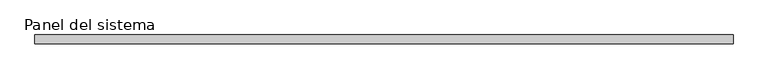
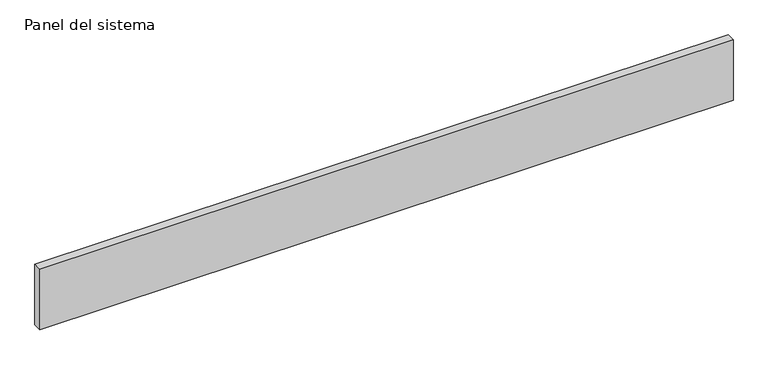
"""IFC4 building model written with IfcOpenShell, lengths in millimetres: plate geometry, Panel del sistema : HIANSA - CHAPA PERFILADA CUBIERTA - MT53MA8 Hor."""

from ifc_helpers import new_model, si_unit, origin, origin_with_axes, place, context, project, spatial, polyline, outline, extrude, source, transform, mapped, element, save


def panel_del_sistema_afb86d00(model_context):
    return source(origin(), model_context, "Body", "SweptSolid", [
        extrude(outline(polyline([(2128.0, -52.5), (-2128.0, -52.5), (-2128.0, 0.5), (2128.0, 0.5), (2128.0, -52.5)])), origin_with_axes(), (0.0, 0.0, 1.0), 392.0),
    ])


if __name__ == "__main__":
    model = new_model("IFC4")
    model_context = context("Model", 3, world=origin())
    ifc_project = project(units=[si_unit("LENGTHUNIT", "METRE", prefix="MILLI")], contexts=[model_context])
    site = spatial("IfcSite", under=ifc_project)
    building = spatial("IfcBuilding", under=site)
    placement = place(None, origin())
    panel_del_sistema_shape = panel_del_sistema_afb86d00(model_context)
    element("IfcPlate", 1, ObjectType="Panel del sistema : HIANSA - CHAPA PERFILADA CUBIERTA - MT53MA8 Hor", at=placement, inside=building, context=model_context, shape_type="MappedRepresentation", body=[
        mapped(panel_del_sistema_shape, transform((0.0, 0.0, 0.0), x_axis=(1.0, 0.0, 0.0), y_axis=(0.0, 1.0, 0.0), z_axis=(0.0, 0.0, 1.0))),
    ])
    save(model, "model.ifc")
